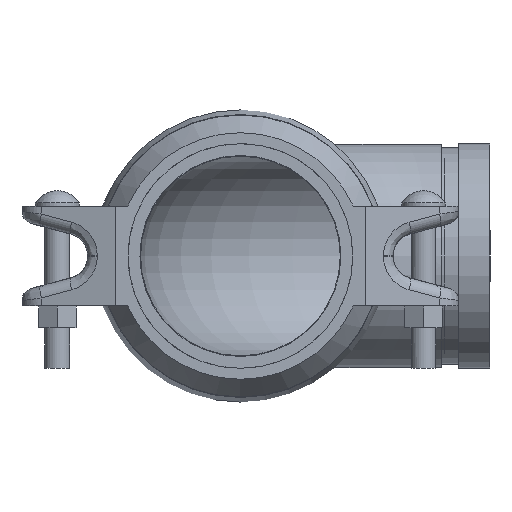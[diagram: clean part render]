
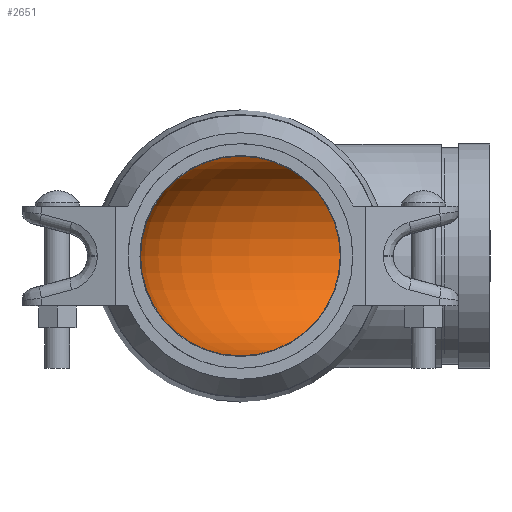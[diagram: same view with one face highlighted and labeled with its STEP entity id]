
A CAD part, left-side view. The second image highlights one B-rep face of the part: STEP entity #2651.
In plain terms, the highlighted toroidal (fillet/blend) face has major radius 103.988 mm and minor radius 51.13 mm.
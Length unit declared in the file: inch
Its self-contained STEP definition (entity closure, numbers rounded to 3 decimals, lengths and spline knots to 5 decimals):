
#102=TOROIDAL_SURFACE('',#2912,4.094,2.013);
#570=FACE_OUTER_BOUND('',#723,.T.);
#723=EDGE_LOOP('',(#1695,#1696,#1697,#1698,#1699,#1700));
#897=CIRCLE('',#2909,2.013);
#898=CIRCLE('',#2910,2.013);
#900=CIRCLE('',#2913,2.013);
#901=CIRCLE('',#2914,2.081);
#902=CIRCLE('',#2915,2.013);
#1039=VERTEX_POINT('',#4316);
#1040=VERTEX_POINT('',#4317);
#1042=VERTEX_POINT('',#4324);
#1043=VERTEX_POINT('',#4325);
#1297=EDGE_CURVE('',#1039,#1040,#897,.T.);
#1298=EDGE_CURVE('',#1040,#1039,#898,.T.);
#1301=EDGE_CURVE('',#1042,#1043,#900,.T.);
#1302=EDGE_CURVE('',#1043,#1040,#901,.T.);
#1303=EDGE_CURVE('',#1043,#1042,#902,.T.);
#1695=ORIENTED_EDGE('',*,*,#1301,.T.);
#1696=ORIENTED_EDGE('',*,*,#1302,.T.);
#1697=ORIENTED_EDGE('',*,*,#1297,.F.);
#1698=ORIENTED_EDGE('',*,*,#1298,.F.);
#1699=ORIENTED_EDGE('',*,*,#1302,.F.);
#1700=ORIENTED_EDGE('',*,*,#1303,.T.);
#2651=ADVANCED_FACE('',(#570),#102,.F.);
#2909=AXIS2_PLACEMENT_3D('',#4318,#3248,#3249);
#2910=AXIS2_PLACEMENT_3D('',#4319,#3250,#3251);
#2912=AXIS2_PLACEMENT_3D('',#4323,#3255,#3256);
#2913=AXIS2_PLACEMENT_3D('',#4326,#3257,#3258);
#2914=AXIS2_PLACEMENT_3D('',#4327,#3259,#3260);
#2915=AXIS2_PLACEMENT_3D('',#4328,#3261,#3262);
#3248=DIRECTION('center_axis',(0.,1.,0.));
#3249=DIRECTION('ref_axis',(1.,0.,0.));
#3250=DIRECTION('center_axis',(0.,1.,0.));
#3251=DIRECTION('ref_axis',(1.,0.,0.));
#3255=DIRECTION('center_axis',(0.,0.,1.));
#3256=DIRECTION('ref_axis',(1.,0.,0.));
#3257=DIRECTION('center_axis',(1.,0.,0.));
#3258=DIRECTION('ref_axis',(0.,-1.,0.));
#3259=DIRECTION('center_axis',(0.,0.,1.));
#3260=DIRECTION('ref_axis',(1.,0.,0.));
#3261=DIRECTION('center_axis',(1.,0.,0.));
#3262=DIRECTION('ref_axis',(0.,-1.,0.));
#4316=CARTESIAN_POINT('',(-2.013,-4.094,0.));
#4317=CARTESIAN_POINT('',(2.013,-4.094,0.));
#4318=CARTESIAN_POINT('Origin',(0.,-4.094,
0.));
#4319=CARTESIAN_POINT('Origin',(0.,-4.094,
0.));
#4323=CARTESIAN_POINT('Origin',(4.094,-4.094,0.));
#4324=CARTESIAN_POINT('',(4.094,2.013,0.));
#4325=CARTESIAN_POINT('',(4.094,-2.013,0.));
#4326=CARTESIAN_POINT('Origin',(4.094,0.,0.));
#4327=CARTESIAN_POINT('Origin',(4.094,-4.094,0.));
#4328=CARTESIAN_POINT('Origin',(4.094,0.,0.));
